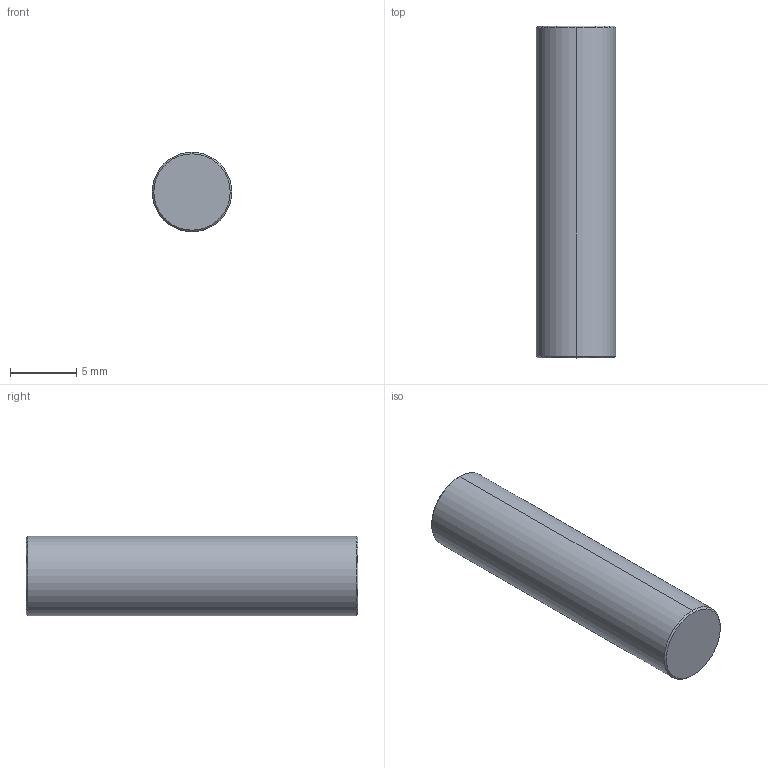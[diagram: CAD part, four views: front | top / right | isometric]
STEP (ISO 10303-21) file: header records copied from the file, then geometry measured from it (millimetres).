
FILE_DESCRIPTION (( 'STEP AP203' ), '1' );
FILE_NAME ('2100-0006-0025.STEP', '2017-05-02T19:35:52', ( '' ), ( '' ), 'SwSTEP 2.0', 'SolidWorks 2016', '' );
FILE_SCHEMA (( 'CONFIG_CONTROL_DESIGN' ));
Length unit declared in the file: millimetre
Products named in the file (1): 2100-0006-0025
Bounding box: 6 x 25 x 6 mm (x, y, z)
Volume: 706.6 mm3; surface area: 525 mm2
Topology: 1 solids, 1 shells, 8 faces, 14 edges, 8 vertices
Faces by surface type: cone 4, cylinder 2, plane 2
Entity records: 271 total; most frequent: DIRECTION 40, CARTESIAN_POINT 31, ORIENTED_EDGE 28, AXIS2_PLACEMENT_3D 17, EDGE_CURVE 14, CIRCLE 8, EDGE_LOOP 8, PERSON_AND_ORGANIZATION 8
